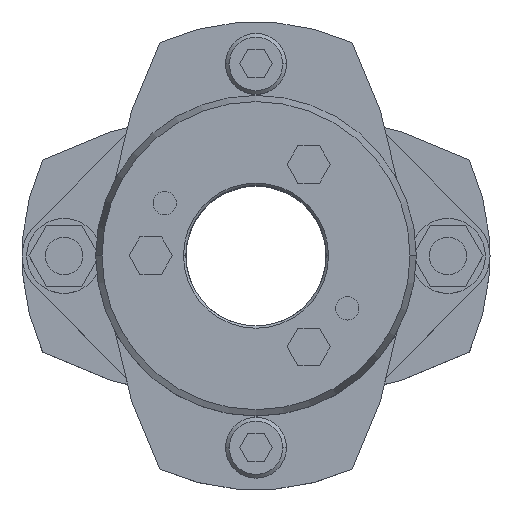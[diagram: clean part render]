
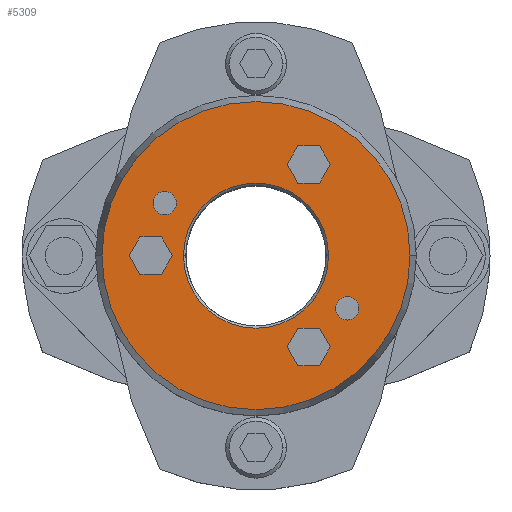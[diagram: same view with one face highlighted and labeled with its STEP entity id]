
A CAD part, top view. The second image highlights one B-rep face of the part: STEP entity #5309.
In plain terms, the highlighted planar face has unit normal (0, 0, 1).
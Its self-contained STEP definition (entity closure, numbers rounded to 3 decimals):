
#857=CARTESIAN_POINT('',(-15.5,0.,42.0));
#858=VERTEX_POINT('',#857);
#874=CARTESIAN_POINT('',(15.5,0.,42.0));
#875=VERTEX_POINT('',#874);
#882=CARTESIAN_POINT('',(0.,0.,42.0));
#883=DIRECTION('',(0.0,0.0,1.0));
#884=DIRECTION('',(-1.0,0.0,0.0));
#885=AXIS2_PLACEMENT_3D('',#882,#883,#884);
#886=CIRCLE('',#885,15.5);
#887=EDGE_CURVE('',#875,#858,#886,.T.);
#1045=CARTESIAN_POINT('',(32.91,0.,42.0));
#1046=VERTEX_POINT('',#1045);
#1053=CARTESIAN_POINT('',(-32.91,0.,42.0));
#1054=VERTEX_POINT('',#1053);
#1055=CARTESIAN_POINT('',(0.,0.,42.0));
#1056=DIRECTION('',(0.0,0.0,-1.0));
#1057=DIRECTION('',(1.0,0.0,0.0));
#1058=AXIS2_PLACEMENT_3D('',#1055,#1056,#1057);
#1059=CIRCLE('',#1058,32.91);
#1060=EDGE_CURVE('',#1046,#1054,#1059,.T.);
#1155=CARTESIAN_POINT('',(16.986,-11.25,42.0));
#1156=VERTEX_POINT('',#1155);
#1172=CARTESIAN_POINT('',(21.986,-11.25,42.0));
#1173=VERTEX_POINT('',#1172);
#1180=CARTESIAN_POINT('',(19.486,-11.25,42.0));
#1181=DIRECTION('',(0.0,0.0,-1.0));
#1182=DIRECTION('',(-1.0,0.0,0.0));
#1183=AXIS2_PLACEMENT_3D('',#1180,#1181,#1182);
#1184=CIRCLE('',#1183,2.5);
#1185=EDGE_CURVE('',#1156,#1173,#1184,.T.);
#1197=CARTESIAN_POINT('',(-21.986,11.25,42.0));
#1198=VERTEX_POINT('',#1197);
#1214=CARTESIAN_POINT('',(-16.986,11.25,42.0));
#1215=VERTEX_POINT('',#1214);
#1222=CARTESIAN_POINT('',(-19.486,11.25,42.0));
#1223=DIRECTION('',(0.0,0.0,-1.0));
#1224=DIRECTION('',(-1.0,0.0,0.0));
#1225=AXIS2_PLACEMENT_3D('',#1222,#1223,#1224);
#1226=CIRCLE('',#1225,2.5);
#1227=EDGE_CURVE('',#1198,#1215,#1226,.T.);
#4336=CARTESIAN_POINT('',(-19.486,11.25,42.0));
#4337=DIRECTION('',(0.0,0.0,-1.0));
#4338=DIRECTION('',(-1.0,0.0,0.0));
#4339=AXIS2_PLACEMENT_3D('',#4336,#4337,#4338);
#4340=CIRCLE('',#4339,2.5);
#4341=EDGE_CURVE('',#1215,#1198,#4340,.T.);
#4370=CARTESIAN_POINT('',(19.486,-11.25,42.0));
#4371=DIRECTION('',(0.0,0.0,-1.0));
#4372=DIRECTION('',(-1.0,0.0,0.0));
#4373=AXIS2_PLACEMENT_3D('',#4370,#4371,#4372);
#4374=CIRCLE('',#4373,2.5);
#4375=EDGE_CURVE('',#1173,#1156,#4374,.T.);
#4413=CARTESIAN_POINT('',(-27.119,0.,42.0));
#4414=VERTEX_POINT('',#4413);
#4421=CARTESIAN_POINT('',(-24.809,-4.,42.0));
#4422=VERTEX_POINT('',#4421);
#4423=CARTESIAN_POINT('',(-24.809,-4.,42.0));
#4424=DIRECTION('',(-0.5,0.866,0.0));
#4425=VECTOR('',#4424,4.619);
#4426=LINE('',#4423,#4425);
#4427=EDGE_CURVE('',#4422,#4414,#4426,.T.);
#4451=CARTESIAN_POINT('',(-24.809,4.,42.0));
#4452=VERTEX_POINT('',#4451);
#4459=CARTESIAN_POINT('',(-27.119,0.,42.0));
#4460=DIRECTION('',(0.5,0.866,0.0));
#4461=VECTOR('',#4460,4.619);
#4462=LINE('',#4459,#4461);
#4463=EDGE_CURVE('',#4414,#4452,#4462,.T.);
#4482=CARTESIAN_POINT('',(-20.191,4.,42.0));
#4483=VERTEX_POINT('',#4482);
#4490=CARTESIAN_POINT('',(-24.809,4.,42.0));
#4491=DIRECTION('',(1.0,0.0,0.0));
#4492=VECTOR('',#4491,4.619);
#4493=LINE('',#4490,#4492);
#4494=EDGE_CURVE('',#4452,#4483,#4493,.T.);
#4513=CARTESIAN_POINT('',(-17.881,0.,42.0));
#4514=VERTEX_POINT('',#4513);
#4521=CARTESIAN_POINT('',(-20.191,4.,42.0));
#4522=DIRECTION('',(0.5,-0.866,0.0));
#4523=VECTOR('',#4522,4.619);
#4524=LINE('',#4521,#4523);
#4525=EDGE_CURVE('',#4483,#4514,#4524,.T.);
#4544=CARTESIAN_POINT('',(-20.191,-4.,42.0));
#4545=VERTEX_POINT('',#4544);
#4552=CARTESIAN_POINT('',(-17.881,0.,42.0));
#4553=DIRECTION('',(-0.5,-0.866,0.0));
#4554=VECTOR('',#4553,4.619);
#4555=LINE('',#4552,#4554);
#4556=EDGE_CURVE('',#4514,#4545,#4555,.T.);
#4574=CARTESIAN_POINT('',(-20.191,-4.,42.0));
#4575=DIRECTION('',(-1.0,0.0,0.0));
#4576=VECTOR('',#4575,4.619);
#4577=LINE('',#4574,#4576);
#4578=EDGE_CURVE('',#4545,#4422,#4577,.T.);
#4613=CARTESIAN_POINT('',(6.631,19.486,42.0));
#4614=VERTEX_POINT('',#4613);
#4621=CARTESIAN_POINT('',(8.941,15.486,42.0));
#4622=VERTEX_POINT('',#4621);
#4623=CARTESIAN_POINT('',(8.941,15.486,42.0));
#4624=DIRECTION('',(-0.5,0.866,0.0));
#4625=VECTOR('',#4624,4.619);
#4626=LINE('',#4623,#4625);
#4627=EDGE_CURVE('',#4622,#4614,#4626,.T.);
#4651=CARTESIAN_POINT('',(8.941,23.486,42.0));
#4652=VERTEX_POINT('',#4651);
#4659=CARTESIAN_POINT('',(6.631,19.486,42.0));
#4660=DIRECTION('',(0.5,0.866,0.0));
#4661=VECTOR('',#4660,4.619);
#4662=LINE('',#4659,#4661);
#4663=EDGE_CURVE('',#4614,#4652,#4662,.T.);
#4682=CARTESIAN_POINT('',(13.559,23.486,42.0));
#4683=VERTEX_POINT('',#4682);
#4690=CARTESIAN_POINT('',(8.941,23.486,42.0));
#4691=DIRECTION('',(1.0,0.0,0.0));
#4692=VECTOR('',#4691,4.619);
#4693=LINE('',#4690,#4692);
#4694=EDGE_CURVE('',#4652,#4683,#4693,.T.);
#4713=CARTESIAN_POINT('',(15.869,19.486,42.0));
#4714=VERTEX_POINT('',#4713);
#4721=CARTESIAN_POINT('',(13.559,23.486,42.0));
#4722=DIRECTION('',(0.5,-0.866,0.0));
#4723=VECTOR('',#4722,4.619);
#4724=LINE('',#4721,#4723);
#4725=EDGE_CURVE('',#4683,#4714,#4724,.T.);
#4744=CARTESIAN_POINT('',(13.559,15.486,42.0));
#4745=VERTEX_POINT('',#4744);
#4752=CARTESIAN_POINT('',(15.869,19.486,42.0));
#4753=DIRECTION('',(-0.5,-0.866,0.0));
#4754=VECTOR('',#4753,4.619);
#4755=LINE('',#4752,#4754);
#4756=EDGE_CURVE('',#4714,#4745,#4755,.T.);
#4774=CARTESIAN_POINT('',(13.559,15.486,42.0));
#4775=DIRECTION('',(-1.0,0.0,0.0));
#4776=VECTOR('',#4775,4.619);
#4777=LINE('',#4774,#4776);
#4778=EDGE_CURVE('',#4745,#4622,#4777,.T.);
#4813=CARTESIAN_POINT('',(6.631,-19.486,42.0));
#4814=VERTEX_POINT('',#4813);
#4821=CARTESIAN_POINT('',(8.941,-23.486,42.0));
#4822=VERTEX_POINT('',#4821);
#4823=CARTESIAN_POINT('',(8.941,-23.486,42.0));
#4824=DIRECTION('',(-0.5,0.866,0.0));
#4825=VECTOR('',#4824,4.619);
#4826=LINE('',#4823,#4825);
#4827=EDGE_CURVE('',#4822,#4814,#4826,.T.);
#4851=CARTESIAN_POINT('',(8.941,-15.486,42.0));
#4852=VERTEX_POINT('',#4851);
#4859=CARTESIAN_POINT('',(6.631,-19.486,42.0));
#4860=DIRECTION('',(0.5,0.866,0.0));
#4861=VECTOR('',#4860,4.619);
#4862=LINE('',#4859,#4861);
#4863=EDGE_CURVE('',#4814,#4852,#4862,.T.);
#4882=CARTESIAN_POINT('',(13.559,-15.486,42.0));
#4883=VERTEX_POINT('',#4882);
#4890=CARTESIAN_POINT('',(8.941,-15.486,42.0));
#4891=DIRECTION('',(1.0,0.0,0.0));
#4892=VECTOR('',#4891,4.619);
#4893=LINE('',#4890,#4892);
#4894=EDGE_CURVE('',#4852,#4883,#4893,.T.);
#4913=CARTESIAN_POINT('',(15.869,-19.486,42.0));
#4914=VERTEX_POINT('',#4913);
#4921=CARTESIAN_POINT('',(13.559,-15.486,42.0));
#4922=DIRECTION('',(0.5,-0.866,0.0));
#4923=VECTOR('',#4922,4.619);
#4924=LINE('',#4921,#4923);
#4925=EDGE_CURVE('',#4883,#4914,#4924,.T.);
#4944=CARTESIAN_POINT('',(13.559,-23.486,42.0));
#4945=VERTEX_POINT('',#4944);
#4952=CARTESIAN_POINT('',(15.869,-19.486,42.0));
#4953=DIRECTION('',(-0.5,-0.866,0.0));
#4954=VECTOR('',#4953,4.619);
#4955=LINE('',#4952,#4954);
#4956=EDGE_CURVE('',#4914,#4945,#4955,.T.);
#4974=CARTESIAN_POINT('',(13.559,-23.486,42.0));
#4975=DIRECTION('',(-1.0,0.0,0.0));
#4976=VECTOR('',#4975,4.619);
#4977=LINE('',#4974,#4976);
#4978=EDGE_CURVE('',#4945,#4822,#4977,.T.);
#5248=CARTESIAN_POINT('',(0.,0.,42.0));
#5249=DIRECTION('',(0.0,0.0,-1.0));
#5250=DIRECTION('',(1.0,0.0,0.0));
#5251=AXIS2_PLACEMENT_3D('',#5248,#5249,#5250);
#5252=CIRCLE('',#5251,32.91);
#5253=EDGE_CURVE('',#1054,#1046,#5252,.T.);
#5258=CARTESIAN_POINT('',(-3.114,0.,42.0));
#5259=DIRECTION('',(0.0,0.0,1.0));
#5260=DIRECTION('',(-1.0,0.0,0.0));
#5261=AXIS2_PLACEMENT_3D('',#5258,#5259,#5260);
#5262=PLANE('',#5261);
#5263=ORIENTED_EDGE('',*,*,#5253,.F.);
#5264=ORIENTED_EDGE('',*,*,#1060,.F.);
#5265=EDGE_LOOP('',(#5263,#5264));
#5266=FACE_OUTER_BOUND('',#5265,.T.);
#5267=ORIENTED_EDGE('',*,*,#1227,.T.);
#5268=ORIENTED_EDGE('',*,*,#4341,.T.);
#5269=EDGE_LOOP('',(#5267,#5268));
#5270=FACE_BOUND('',#5269,.T.);
#5271=ORIENTED_EDGE('',*,*,#1185,.T.);
#5272=ORIENTED_EDGE('',*,*,#4375,.T.);
#5273=EDGE_LOOP('',(#5271,#5272));
#5274=FACE_BOUND('',#5273,.T.);
#5275=ORIENTED_EDGE('',*,*,#4427,.T.);
#5276=ORIENTED_EDGE('',*,*,#4463,.T.);
#5277=ORIENTED_EDGE('',*,*,#4494,.T.);
#5278=ORIENTED_EDGE('',*,*,#4525,.T.);
#5279=ORIENTED_EDGE('',*,*,#4556,.T.);
#5280=ORIENTED_EDGE('',*,*,#4578,.T.);
#5281=EDGE_LOOP('',(#5275,#5276,#5277,#5278,#5279,#5280));
#5282=FACE_BOUND('',#5281,.T.);
#5283=ORIENTED_EDGE('',*,*,#4627,.T.);
#5284=ORIENTED_EDGE('',*,*,#4663,.T.);
#5285=ORIENTED_EDGE('',*,*,#4694,.T.);
#5286=ORIENTED_EDGE('',*,*,#4725,.T.);
#5287=ORIENTED_EDGE('',*,*,#4756,.T.);
#5288=ORIENTED_EDGE('',*,*,#4778,.T.);
#5289=EDGE_LOOP('',(#5283,#5284,#5285,#5286,#5287,#5288));
#5290=FACE_BOUND('',#5289,.T.);
#5291=ORIENTED_EDGE('',*,*,#4827,.T.);
#5292=ORIENTED_EDGE('',*,*,#4863,.T.);
#5293=ORIENTED_EDGE('',*,*,#4894,.T.);
#5294=ORIENTED_EDGE('',*,*,#4925,.T.);
#5295=ORIENTED_EDGE('',*,*,#4956,.T.);
#5296=ORIENTED_EDGE('',*,*,#4978,.T.);
#5297=EDGE_LOOP('',(#5291,#5292,#5293,#5294,#5295,#5296));
#5298=FACE_BOUND('',#5297,.T.);
#5299=ORIENTED_EDGE('',*,*,#887,.F.);
#5300=CARTESIAN_POINT('',(0.,0.,42.0));
#5301=DIRECTION('',(0.0,0.0,1.0));
#5302=DIRECTION('',(-1.0,0.0,0.0));
#5303=AXIS2_PLACEMENT_3D('',#5300,#5301,#5302);
#5304=CIRCLE('',#5303,15.5);
#5305=EDGE_CURVE('',#858,#875,#5304,.T.);
#5306=ORIENTED_EDGE('',*,*,#5305,.F.);
#5307=EDGE_LOOP('',(#5299,#5306));
#5308=FACE_BOUND('',#5307,.T.);
#5309=ADVANCED_FACE('',(#5266,#5270,#5274,#5282,#5290,#5298,#5308),#5262,.T.);
